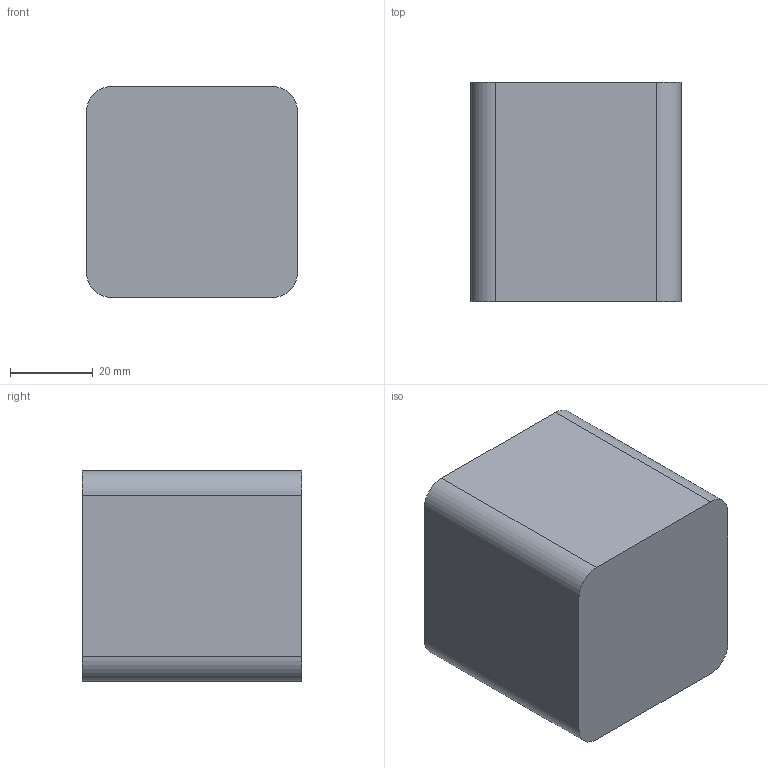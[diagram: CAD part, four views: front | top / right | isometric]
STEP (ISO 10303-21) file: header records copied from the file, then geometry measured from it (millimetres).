
FILE_DESCRIPTION(('Open CASCADE Model'),'2;1');
FILE_NAME('Open CASCADE Shape Model','2026-10-17T16:45:04',('Author'),( 'Open CASCADE'),'Open CASCADE STEP processor 8.0','build123d', 'Unknown');
FILE_SCHEMA(('AUTOMOTIVE_DESIGN { 1 0 10303 214 1 1 1 1 }'));
Length unit declared in the file: millimetre
Products named in the file (2): =>[0:1:1:2]; COMPOUND
Assembly tree (1 placements, depth 2):
  =>[0:1:1:2]
    COMPOUND
Bounding box: 51 x 53 x 51 mm (x, y, z)
Volume: 136215.2 mm3; surface area: 15406.2 mm2
Topology: 1 solids, 1 shells, 10 faces, 24 edges, 16 vertices
Faces by surface type: plane 6, cylinder 4
Entity records: 648 total; most frequent: CARTESIAN_POINT 124, DIRECTION 100, LINE 56, VECTOR 56, ORIENTED_EDGE 48, PCURVE 48, DEFINITIONAL_REPRESENTATION 48, EDGE_CURVE 24
